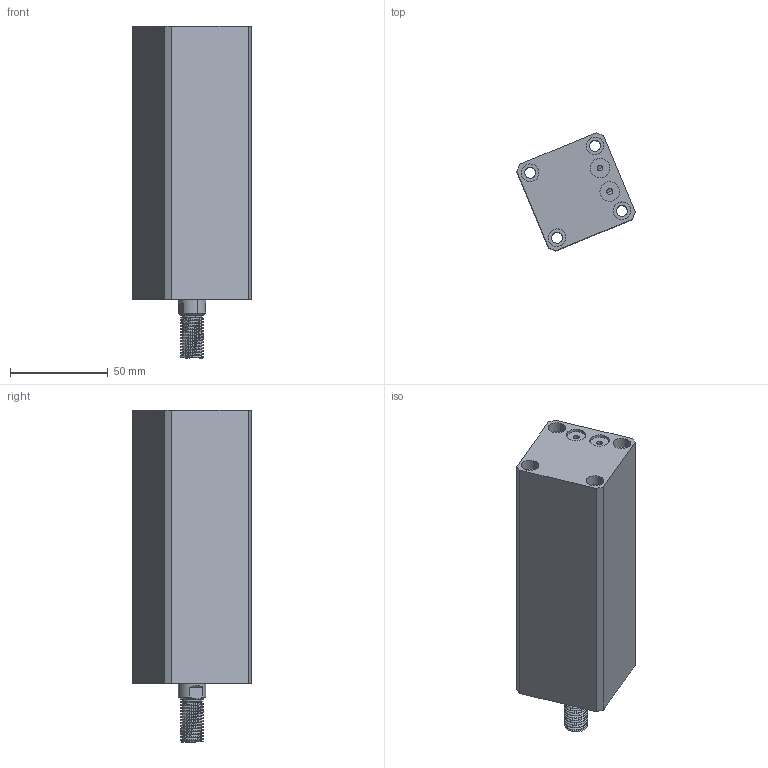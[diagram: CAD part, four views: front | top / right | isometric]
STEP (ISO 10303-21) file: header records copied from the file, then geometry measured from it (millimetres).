
FILE_DESCRIPTION (( 'STEP AP214' ), '1' );
FILE_NAME ('chtb-sdmb25x95w_asm.STEP', '2018-05-24T02:43:00', ( 'Windows' ), ( 'Microsoft' ), 'SwSTEP 2.0', 'SolidWorks 2015', '' );
FILE_SCHEMA (( 'AUTOMOTIVE_DESIGN' ));
Length unit declared in the file: millimetre
Products named in the file (4): CHTB-SDMB25X95WHSG; CHTB-SDMB25X95NBT; CHTB-25QG; chtb-sdmb25x95w_asm
Assembly tree (3 placements, depth 2):
  chtb-sdmb25x95w_asm
    CHTB-25QG
    CHTB-SDMB25X95NBT
    CHTB-SDMB25X95WHSG
Bounding box: 60.55 x 60.55 x 170 mm (x, y, z)
Volume: 273961.3 mm3; surface area: 67232.7 mm2
Topology: 3 solids, 3 shells, 176 faces, 476 edges, 323 vertices
Faces by surface type: cylinder 118, plane 37, bspline 12, cone 9
Entity records: 10721 total; most frequent: CARTESIAN_POINT 6406, ORIENTED_EDGE 944, DIRECTION 765, EDGE_CURVE 472, VERTEX_POINT 323, AXIS2_PLACEMENT_3D 310, EDGE_LOOP 215, ADVANCED_FACE 176
